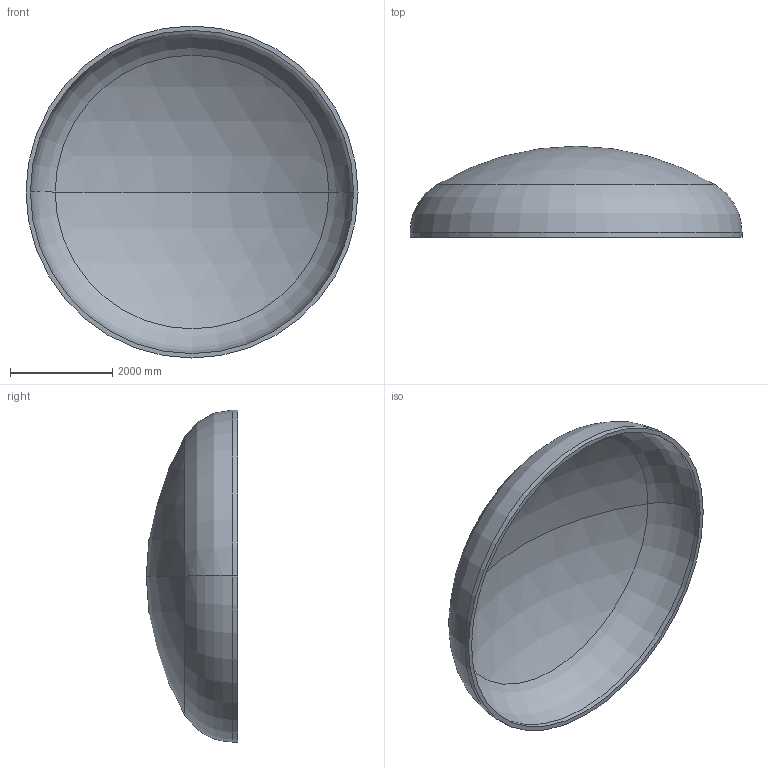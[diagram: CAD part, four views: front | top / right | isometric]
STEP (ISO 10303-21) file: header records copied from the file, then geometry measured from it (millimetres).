
FILE_DESCRIPTION (( 'STEP AP203' ), '1' );
FILE_NAME ('DIN 28013 Korbbogenform_-_Boden DIN 28013 - 6500 x 100 - I - s=86.step', '2016-07-04T10:43:33', ( '' ), ( '' ), 'SwSTEP 2.0', 'SolidWorks 2013', '' );
FILE_SCHEMA (( 'CONFIG_CONTROL_DESIGN' ));
Length unit declared in the file: millimetre
Products named in the file (1): DIN 28013 Korbbogenform_-_Boden DIN 28013 - 6500 x 100 - I - s=86
Bounding box: 6500 x 1786.4 x 6500 mm (x, y, z)
Volume: 4056409876.6 mm3; surface area: 96083482.7 mm2
Topology: 1 solids, 1 shells, 13 faces, 24 edges, 14 vertices
Faces by surface type: torus 4, cylinder 4, sphere 4, plane 1
Entity records: 407 total; most frequent: DIRECTION 72, CARTESIAN_POINT 52, ORIENTED_EDGE 48, AXIS2_PLACEMENT_3D 34, EDGE_CURVE 24, CIRCLE 20, EDGE_LOOP 14, VERTEX_POINT 14
